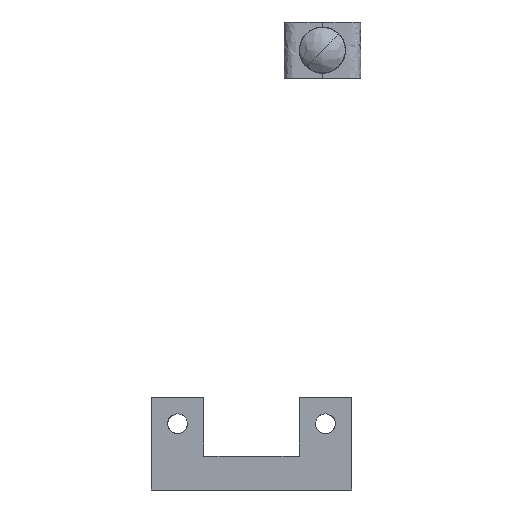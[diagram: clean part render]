
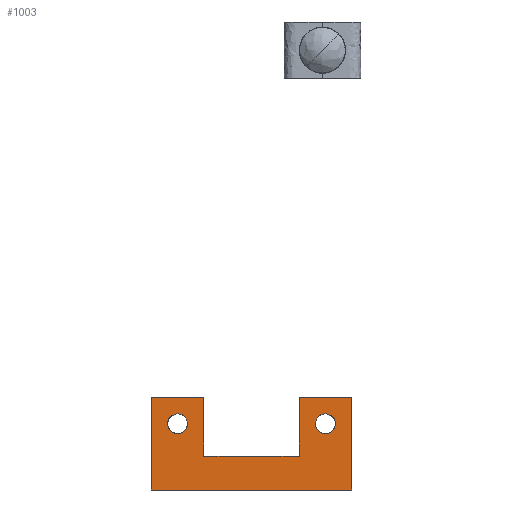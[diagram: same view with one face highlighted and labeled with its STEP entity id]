
A CAD part, front view. The second image highlights one B-rep face of the part: STEP entity #1003.
In plain terms, the highlighted planar face has unit normal (0, -1, 0).
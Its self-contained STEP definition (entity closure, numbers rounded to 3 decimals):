
#73=FACE_BOUND($,#1186,.T.);
#74=FACE_BOUND($,#1187,.T.);
#94=(
BOUNDED_CURVE()
B_SPLINE_CURVE(2,(#3177,#3178,#3179,#3180,#3181,#3182,#3183,#3184,#3185),
.UNSPECIFIED.,.T.,.F.)
B_SPLINE_CURVE_WITH_KNOTS((3,2,2,2,3),(0.,5.027,10.053,
15.08,20.106),.UNSPECIFIED.)
CURVE()
GEOMETRIC_REPRESENTATION_ITEM()
RATIONAL_B_SPLINE_CURVE((1.,0.707,1.,0.707,1.,0.707,
1.,0.707,1.))
REPRESENTATION_ITEM($)
);
#95=(
BOUNDED_CURVE()
B_SPLINE_CURVE(2,(#3186,#3187,#3188,#3189,#3190,#3191,#3192,#3193,#3194),
.UNSPECIFIED.,.T.,.F.)
B_SPLINE_CURVE_WITH_KNOTS((3,2,2,2,3),(0.,5.027,10.053,
15.08,20.106),.UNSPECIFIED.)
CURVE()
GEOMETRIC_REPRESENTATION_ITEM()
RATIONAL_B_SPLINE_CURVE((1.,0.707,1.,0.707,1.,0.707,
1.,0.707,1.))
REPRESENTATION_ITEM($)
);
#1003=ADVANCED_FACE($,(#1093,#73,#74),#2429,.T.);
#1093=FACE_OUTER_BOUND($,#1185,.T.);
#1185=EDGE_LOOP($,(#1333,#1334,#1335,#1336,#1337,#1338,#1339,#1340,#1341));
#1186=EDGE_LOOP($,(#1342));
#1187=EDGE_LOOP($,(#1343));
#1333=ORIENTED_EDGE($,*,*,#1744,.T.);
#1334=ORIENTED_EDGE($,*,*,#1754,.T.);
#1335=ORIENTED_EDGE($,*,*,#1753,.T.);
#1336=ORIENTED_EDGE($,*,*,#1752,.T.);
#1337=ORIENTED_EDGE($,*,*,#1751,.T.);
#1338=ORIENTED_EDGE($,*,*,#1750,.T.);
#1339=ORIENTED_EDGE($,*,*,#1749,.T.);
#1340=ORIENTED_EDGE($,*,*,#1748,.T.);
#1341=ORIENTED_EDGE($,*,*,#1747,.T.);
#1342=ORIENTED_EDGE($,*,*,#1745,.T.);
#1343=ORIENTED_EDGE($,*,*,#1746,.F.);
#1744=EDGE_CURVE($,#2123,#2133,#2512,.T.);
#1745=EDGE_CURVE($,#2124,#2124,#94,.T.);
#1746=EDGE_CURVE($,#2125,#2125,#95,.T.);
#1747=EDGE_CURVE($,#2126,#2123,#2513,.T.);
#1748=EDGE_CURVE($,#2127,#2126,#2514,.T.);
#1749=EDGE_CURVE($,#2128,#2127,#2515,.T.);
#1750=EDGE_CURVE($,#2129,#2128,#2516,.T.);
#1751=EDGE_CURVE($,#2130,#2129,#2517,.T.);
#1752=EDGE_CURVE($,#2131,#2130,#2518,.T.);
#1753=EDGE_CURVE($,#2132,#2131,#2519,.T.);
#1754=EDGE_CURVE($,#2133,#2132,#2520,.T.);
#2123=VERTEX_POINT($,#3213);
#2124=VERTEX_POINT($,#3214);
#2125=VERTEX_POINT($,#3215);
#2126=VERTEX_POINT($,#3216);
#2127=VERTEX_POINT($,#3217);
#2128=VERTEX_POINT($,#3218);
#2129=VERTEX_POINT($,#3219);
#2130=VERTEX_POINT($,#3220);
#2131=VERTEX_POINT($,#3221);
#2132=VERTEX_POINT($,#3222);
#2133=VERTEX_POINT($,#3223);
#2429=PLANE($,#2816);
#2512=B_SPLINE_CURVE_WITH_KNOTS($,1,(#3175,#3176),.UNSPECIFIED.,.F.,.F.,
(2,2),(-228.,-212.5),.UNSPECIFIED.);
#2513=B_SPLINE_CURVE_WITH_KNOTS($,1,(#3195,#3196),.UNSPECIFIED.,.F.,.F.,
(2,2),(-15.5,0.),.UNSPECIFIED.);
#2514=B_SPLINE_CURVE_WITH_KNOTS($,1,(#3197,#3198),.UNSPECIFIED.,.F.,.F.,
(2,2),(-34.5,-15.5),.UNSPECIFIED.);
#2515=B_SPLINE_CURVE_WITH_KNOTS($,1,(#3199,#3200),.UNSPECIFIED.,.F.,.F.,
(2,2),(-51.5,-34.5),.UNSPECIFIED.);
#2516=B_SPLINE_CURVE_WITH_KNOTS($,1,(#3201,#3202),.UNSPECIFIED.,.F.,.F.,
(2,2),(-81.5,-51.5),.UNSPECIFIED.);
#2517=B_SPLINE_CURVE_WITH_KNOTS($,1,(#3203,#3204,#3205),.UNSPECIFIED.,.F.,
.F.,(2,1,2),(-146.5,-114.,-81.5),.UNSPECIFIED.);
#2518=B_SPLINE_CURVE_WITH_KNOTS($,1,(#3206,#3207),.UNSPECIFIED.,.F.,.F.,
(2,2),(-176.5,-146.5),.UNSPECIFIED.);
#2519=B_SPLINE_CURVE_WITH_KNOTS($,1,(#3208,#3209),.UNSPECIFIED.,.F.,.F.,
(2,2),(-193.5,-176.5),.UNSPECIFIED.);
#2520=B_SPLINE_CURVE_WITH_KNOTS($,1,(#3210,#3211),.UNSPECIFIED.,.F.,.F.,
(2,2),(-212.5,-193.5),.UNSPECIFIED.);
#2816=AXIS2_PLACEMENT_3D($,#3212,#2864,$);
#2864=DIRECTION($,(0.,-1.,0.));
#3175=CARTESIAN_POINT($,(-21.378,54.428,-122.337));
#3176=CARTESIAN_POINT($,(-35.769,54.428,-122.337));
#3177=CARTESIAN_POINT($,(-2.066,54.428,-112.588));
#3178=CARTESIAN_POINT($,(-2.066,54.428,-109.617));
#3179=CARTESIAN_POINT($,(0.905,54.428,-109.617));
#3180=CARTESIAN_POINT($,(3.876,54.428,-109.617));
#3181=CARTESIAN_POINT($,(3.876,54.428,-112.588));
#3182=CARTESIAN_POINT($,(3.876,54.428,-115.559));
#3183=CARTESIAN_POINT($,(0.905,54.428,-115.559));
#3184=CARTESIAN_POINT($,(-2.066,54.428,-115.559));
#3185=CARTESIAN_POINT($,(-2.066,54.428,-112.588));
#3186=CARTESIAN_POINT($,(-40.69,54.428,-112.588));
#3187=CARTESIAN_POINT($,(-40.69,54.428,-109.617));
#3188=CARTESIAN_POINT($,(-43.661,54.428,-109.617));
#3189=CARTESIAN_POINT($,(-46.632,54.428,-109.617));
#3190=CARTESIAN_POINT($,(-46.632,54.428,-112.588));
#3191=CARTESIAN_POINT($,(-46.632,54.428,-115.559));
#3192=CARTESIAN_POINT($,(-43.661,54.428,-115.559));
#3193=CARTESIAN_POINT($,(-40.69,54.428,-115.559));
#3194=CARTESIAN_POINT($,(-40.69,54.428,-112.588));
#3195=CARTESIAN_POINT($,(-6.987,54.428,-122.337));
#3196=CARTESIAN_POINT($,(-21.378,54.428,-122.337));
#3197=CARTESIAN_POINT($,(-6.987,54.428,-104.696));
#3198=CARTESIAN_POINT($,(-6.987,54.428,-122.337));
#3199=CARTESIAN_POINT($,(8.797,54.428,-104.696));
#3200=CARTESIAN_POINT($,(-6.987,54.428,-104.696));
#3201=CARTESIAN_POINT($,(8.797,54.428,-132.55));
#3202=CARTESIAN_POINT($,(8.797,54.428,-104.696));
#3203=CARTESIAN_POINT($,(-51.553,54.428,-132.55));
#3204=CARTESIAN_POINT($,(-21.378,54.428,-132.55));
#3205=CARTESIAN_POINT($,(8.797,54.428,-132.55));
#3206=CARTESIAN_POINT($,(-51.553,54.428,-104.696));
#3207=CARTESIAN_POINT($,(-51.553,54.428,-132.55));
#3208=CARTESIAN_POINT($,(-35.769,54.428,-104.696));
#3209=CARTESIAN_POINT($,(-51.553,54.428,-104.696));
#3210=CARTESIAN_POINT($,(-35.769,54.428,-122.337));
#3211=CARTESIAN_POINT($,(-35.769,54.428,-104.696));
#3212=CARTESIAN_POINT($,(-51.553,54.428,-132.55));
#3213=CARTESIAN_POINT($,(-21.378,54.428,-122.337));
#3214=CARTESIAN_POINT($,(-2.066,54.428,-112.588));
#3215=CARTESIAN_POINT($,(-40.69,54.428,-112.588));
#3216=CARTESIAN_POINT($,(-6.987,54.428,-122.337));
#3217=CARTESIAN_POINT($,(-6.987,54.428,-104.696));
#3218=CARTESIAN_POINT($,(8.797,54.428,-104.696));
#3219=CARTESIAN_POINT($,(8.797,54.428,-132.55));
#3220=CARTESIAN_POINT($,(-51.553,54.428,-132.55));
#3221=CARTESIAN_POINT($,(-51.553,54.428,-104.696));
#3222=CARTESIAN_POINT($,(-35.769,54.428,-104.696));
#3223=CARTESIAN_POINT($,(-35.769,54.428,-122.337));
